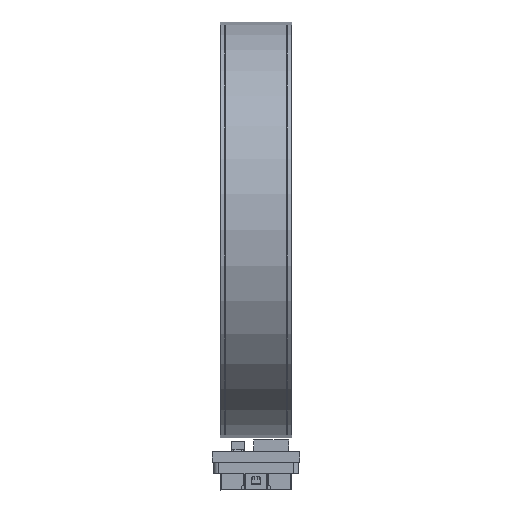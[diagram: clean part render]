
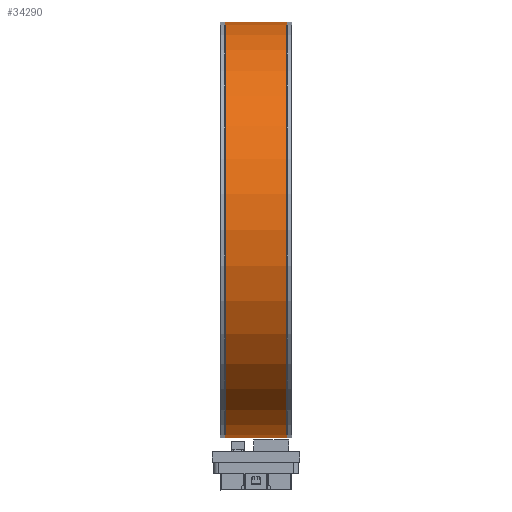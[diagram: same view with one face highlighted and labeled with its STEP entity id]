
A CAD part, left-side view. The second image highlights one B-rep face of the part: STEP entity #34290.
In plain terms, the highlighted cylindrical face has radius 40.45 mm (diameter 80.9 mm), a partial arc.
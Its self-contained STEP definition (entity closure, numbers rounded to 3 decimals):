
#269 = CIRCLE ( 'NONE', #58229, 40.45 ) ;
#1172 = EDGE_CURVE ( 'NONE', #78329, #71386, #4620, .T. ) ;
#1718 = EDGE_LOOP ( 'NONE', ( #11789, #29415, #40481, #35961 ) ) ;
#4620 = LINE ( 'NONE', #54225, #11032 ) ;
#6690 = EDGE_CURVE ( 'NONE', #78329, #51147, #269, .T. ) ;
#9087 = CARTESIAN_POINT ( 'NONE',  ( 0., 1., -40.45 ) ) ;
#9460 = AXIS2_PLACEMENT_3D ( 'NONE', #38690, #31423, #17334 ) ;
#11032 = VECTOR ( 'NONE', #73815, 1000. ) ;
#11789 = ORIENTED_EDGE ( 'NONE', *, *, #1172, .F. ) ;
#14091 = VERTEX_POINT ( 'NONE', #16013 ) ;
#16013 = CARTESIAN_POINT ( 'NONE',  ( 0., 13., 40.45 ) ) ;
#17126 = CARTESIAN_POINT ( 'NONE',  ( 0., 13., -40.45 ) ) ;
#17334 = DIRECTION ( 'NONE',  ( 0., 0., 1. ) ) ;
#17679 = DIRECTION ( 'NONE',  ( 0., 1., 0. ) ) ;
#25429 = EDGE_CURVE ( 'NONE', #51147, #14091, #81684, .T. ) ;
#27449 = DIRECTION ( 'NONE',  ( 0., 1., 0. ) ) ;
#28961 = CARTESIAN_POINT ( 'NONE',  ( 0., 13., 0. ) ) ;
#29415 = ORIENTED_EDGE ( 'NONE', *, *, #6690, .T. ) ;
#30387 = CARTESIAN_POINT ( 'NONE',  ( 0., 1., 0. ) ) ;
#31423 = DIRECTION ( 'NONE',  ( 0., 1., 0. ) ) ;
#34290 = ADVANCED_FACE ( 'NONE', ( #67797 ), #81014, .T. ) ;
#35344 = DIRECTION ( 'NONE',  ( 0., 0., -1. ) ) ;
#35961 = ORIENTED_EDGE ( 'NONE', *, *, #73544, .T. ) ;
#38690 = CARTESIAN_POINT ( 'NONE',  ( 0., -15., 0. ) ) ;
#40481 = ORIENTED_EDGE ( 'NONE', *, *, #25429, .T. ) ;
#46391 = VECTOR ( 'NONE', #27449, 1000. ) ;
#51147 = VERTEX_POINT ( 'NONE', #60156 ) ;
#54225 = CARTESIAN_POINT ( 'NONE',  ( 0., -15., -40.45 ) ) ;
#54825 = CARTESIAN_POINT ( 'NONE',  ( 0., -15., 40.45 ) ) ;
#58229 = AXIS2_PLACEMENT_3D ( 'NONE', #30387, #17679, #65466 ) ;
#60156 = CARTESIAN_POINT ( 'NONE',  ( 0., 1., 40.45 ) ) ;
#63086 = CIRCLE ( 'NONE', #74730, 40.45 ) ;
#65466 = DIRECTION ( 'NONE',  ( 0., 0., 1. ) ) ;
#67797 = FACE_OUTER_BOUND ( 'NONE', #1718, .T. ) ;
#71386 = VERTEX_POINT ( 'NONE', #17126 ) ;
#73544 = EDGE_CURVE ( 'NONE', #14091, #71386, #63086, .T. ) ;
#73815 = DIRECTION ( 'NONE',  ( 0., 1., 0. ) ) ;
#74730 = AXIS2_PLACEMENT_3D ( 'NONE', #28961, #84069, #35344 ) ;
#78329 = VERTEX_POINT ( 'NONE', #9087 ) ;
#81014 = CYLINDRICAL_SURFACE ( 'NONE', #9460, 40.45 ) ;
#81684 = LINE ( 'NONE', #54825, #46391 ) ;
#84069 = DIRECTION ( 'NONE',  ( 0., -1., 0. ) ) ;
